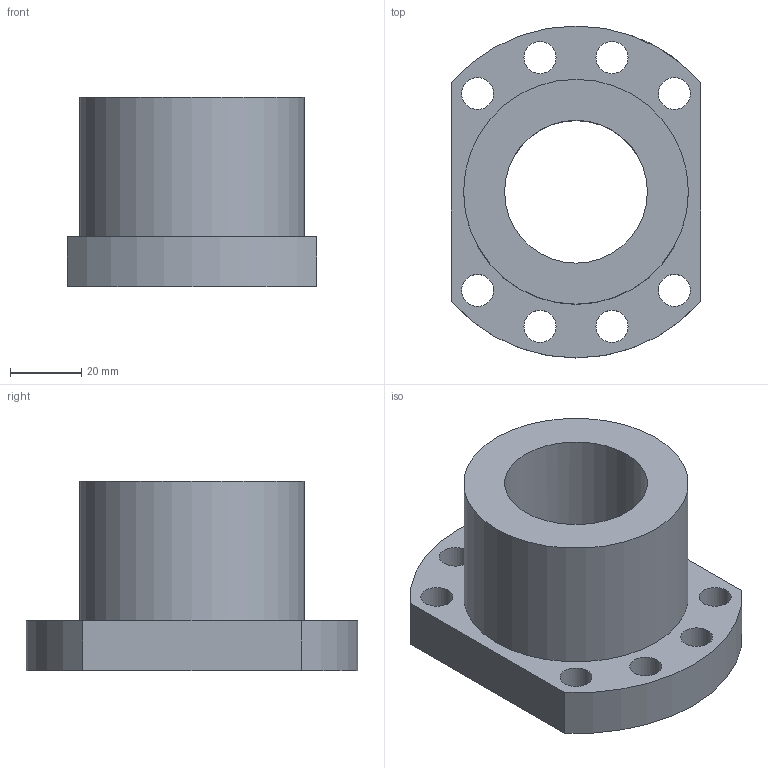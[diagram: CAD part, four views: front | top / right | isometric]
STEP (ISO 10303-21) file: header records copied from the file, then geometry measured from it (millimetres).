
FILE_DESCRIPTION(/* description */ (''),/* implementation_level */ '2;1');
FILE_NAME(/* name */ '40-5T4',/* time_stamp */ '2007-05-17T17:55:36+08:00',/* author */ (''),/* organization */ (''),/* preprocessor_version */ 'ST-DEVELOPER v9',/* originating_system */ 'UGS - NX 4.0',/* authorisation */ '');
FILE_SCHEMA (('CONFIG_CONTROL_DESIGN'));
Length unit declared in the file: millimetre
Products named in the file (1): 40-5T4
Bounding box: 70 x 93 x 53 mm (x, y, z)
Volume: 128557.8 mm3; surface area: 30084.7 mm2
Topology: 1 solids, 1 shells, 20 faces, 48 edges, 32 vertices
Faces by surface type: cylinder 14, plane 6
Full cylindrical faces by diameter (mm): 6 x1, 8 x1, 9 x8, 40 x1, 63 x1
Entity records: 774 total; most frequent: CARTESIAN_POINT 203, DIRECTION 102, ORIENTED_EDGE 72, EDGE_LOOP 54, AXIS2_PLACEMENT_3D 47, FACE_BOUND 46, EDGE_CURVE 36, VERTEX_POINT 32
